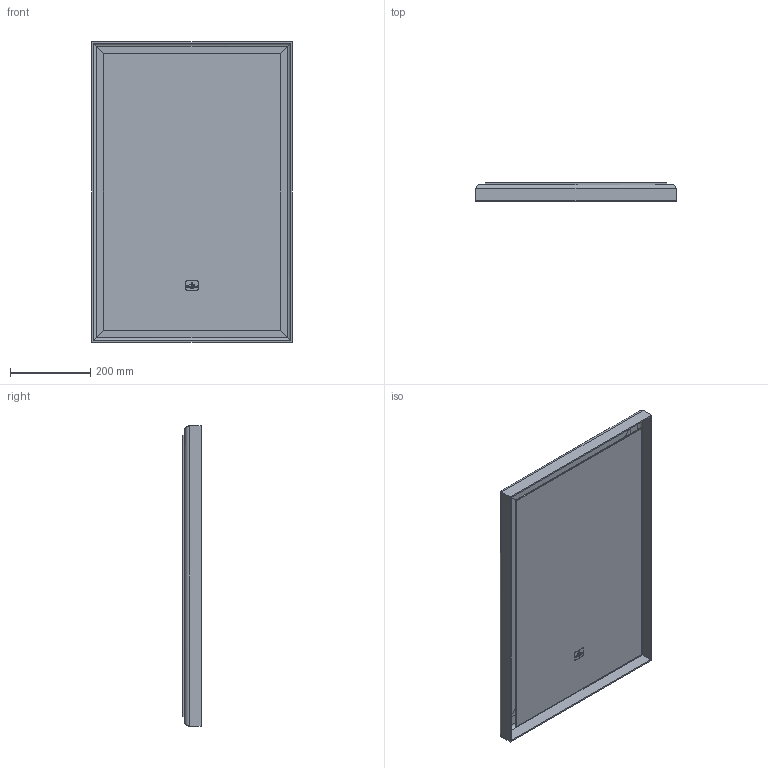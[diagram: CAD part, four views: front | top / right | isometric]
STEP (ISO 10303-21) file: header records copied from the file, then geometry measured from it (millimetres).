
FILE_DESCRIPTION(/* description */ (''),/* implementation_level */ '2;1');
FILE_NAME(/* name */ 'K:\ACAD\PERSPECT\Freisteller\V&B\Subway 3.0\A46350YY.stp',/* time_stamp */ '2020-07-28T15:27:17+02:00',/* author */ ('StegeR'),/* organization */ (''),/* preprocessor_version */ 'ST-DEVELOPER v16.1',/* originating_system */ 'Autodesk Inventor 2016',/* authorisation */ '');
FILE_SCHEMA (('AUTOMOTIVE_DESIGN { 1 0 10303 214 3 1 1 }'));
Length unit declared in the file: millimetre
Products named in the file (1): A46350YY
Bounding box: 500 x 45.5 x 750 mm (x, y, z)
Volume: 2702083 mm3; surface area: 1541062.2 mm2
Topology: 35 solids, 35 shells, 802 faces, 2041 edges, 1358 vertices
Faces by surface type: plane 594, cylinder 200, bspline 8
Full cylindrical faces by diameter (mm): 0.488 x2, 4.4 x12, 5.8 x24
Entity records: 24117 total; most frequent: CARTESIAN_POINT 4308, ORIENTED_EDGE 4006, DIRECTION 4005, EDGE_CURVE 2003, LINE 1575, VECTOR 1575, VERTEX_POINT 1358, AXIS2_PLACEMENT_3D 1215
